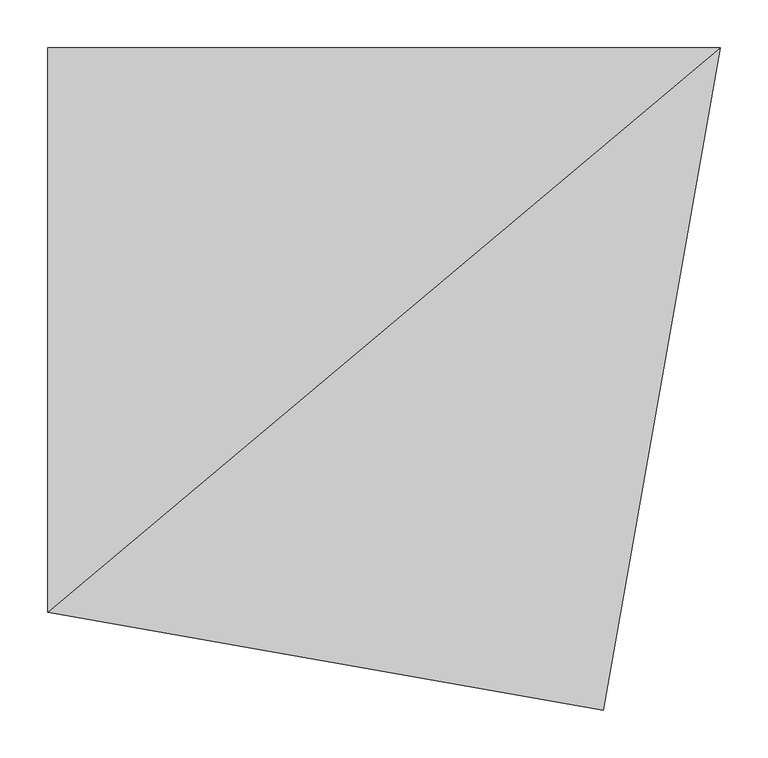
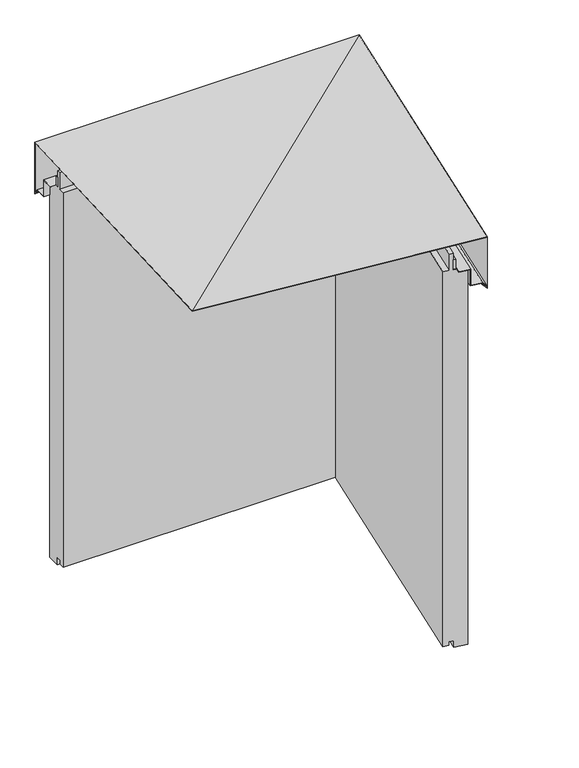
"""IFC4 building model written with IfcOpenShell, lengths in millimetres: plate geometry, Trimo_Qbiss Screen_L Corner Panel-HORIZONTAL : HR - B."""

from ifc_helpers import new_model, si_unit, frame, origin, place, context, project, spatial, polyline, outline, extrude, faceted_brep, source, transform, mapped, element, save


def plate_ab3ce5dd(model_context):
    return source(origin(), model_context, "Body", "SolidModel", [
        faceted_brep([(431.5956525, 134.2, 818.9715729), (431.5956525, 134.2, 934.1569759), (-271.6623204, 134.2, 934.1569759), (-271.6623204, 134.2, 818.9715729), (-271.6623204, -455.9035057, 906.0498724), (-271.6623204, -455.9035057, 906.8473268), (432.5490554, 135.0, 935.0), (-271.6623204, 135.0, 935.0), (432.5490554, 135.0, 817.040202), (-271.6623204, 135.0, 817.040202), (418.2719677, 123.020101, 829.020101), (-271.6623204, 123.020101, 829.020101), (418.9461254, 123.5857864, 829.5857864), (-271.6623204, 123.5857864, 829.5857864), (309.4761871, -558.373904, 818.9715729), (309.4761871, -558.373904, 934.1569759), (310.2640333, -558.5128226, 935.0), (310.2640333, -558.5128226, 817.040202), (298.4661359, -556.432535, 829.020101), (299.0232273, -556.5307652, 829.5857864)], [[[0, 1, 2, 3]], [[2, 1, 4]], [[5, 6, 7]], [[6, 8, 9, 7]], [[8, 10, 11, 9]], [[10, 12, 13, 11]], [[12, 0, 3, 13]], [[1, 0, 14, 15]], [[4, 1, 15]], [[6, 5, 16]], [[8, 6, 16, 17]], [[10, 8, 17, 18]], [[12, 10, 18, 19]], [[0, 12, 19, 14]], [[3, 2, 4, 5, 7, 9, 11, 13]], [[15, 14, 19, 18, 17, 16, 5, 4]]]),
        faceted_brep([(430.4038989, 133.2, 823.9313708), (430.4038989, 133.2, 822.8), (-271.6623204, 133.2, 822.8), (-271.6623204, 133.2, 823.9313708), (420.6315194, 125.0, 831.0), (-271.6623204, 125.0, 831.0), (300.4159558, -556.7763408, 831.0), (276.7805697, -552.6087845, 831.0), (392.0294332, 101.0, 831.0), (-271.6623204, 101.0, 831.0), (392.0294332, 101.0, 868.0), (-271.6623204, 101.0, 868.0), (276.7805697, -552.6087845, 868.0), (253.1451836, -548.4412283, 868.0), (363.427347, 77.0, 868.0), (-271.6623204, 77.0, 868.0), (363.427347, 77.0, 868.8), (-271.6623204, 77.0, 868.8), (253.1451836, -548.4412283, 868.8), (277.5684159, -552.7477031, 868.8), (392.9828361, 101.8, 868.8), (-271.6623204, 101.8, 868.8), (392.9828361, 101.8, 831.8), (-271.6623204, 101.8, 831.8), (277.5684159, -552.7477031, 831.8), (300.7422923, -556.8338828, 831.8), (421.0264318, 125.3313708, 831.8), (-271.6623204, 125.3313708, 831.8), (308.4913793, -558.2002559, 823.9313708), (308.4913793, -558.2002559, 822.8)], [[[0, 1, 2, 3]], [[1, 4, 5, 2]], [[5, 4, 6, 7, 8, 9]], [[8, 10, 11, 9]], [[11, 10, 12, 13, 14, 15]], [[14, 16, 17, 15]], [[17, 16, 18, 19, 20, 21]], [[20, 22, 23, 21]], [[23, 22, 24, 25, 26, 27]], [[26, 0, 3, 27]], [[1, 0, 28, 29]], [[4, 1, 29, 6]], [[10, 8, 7, 12]], [[16, 14, 13, 18]], [[22, 20, 19, 24]], [[0, 26, 25, 28]], [[3, 2, 5, 9, 11, 15, 17, 21, 23, 27]], [[7, 6, 29, 28, 25, 24, 19, 18, 13, 12]]]),
        extrude(outline(polyline([(-259.1623204, 71.0), (-259.1623204, 76.0), (362.2355934, 76.0), (254.3309781, -535.9574832), (249.4069393, -535.0892423), (356.2768254, 71.0), (-259.1623204, 71.0)])), frame((0.0, 0.0, 868.0), z_axis=(0.0, 0.0, 1.0), x_axis=(1.0, 0.0, 0.0)), (0.0, 0.0, 1.0), 21.0),
        faceted_brep([(-259.1623204, 71.0, 867.0), (-259.1623204, 100.0, 867.0), (-259.1623204, 100.0, 0.0), (-259.1623204, 72.0, 0.0), (-259.1623204, 72.0, 15.5), (-259.1623204, 62.0, 15.5), (-259.1623204, 62.0, 7.0), (-259.1623204, 50.0, 7.0), (-259.1623204, 50.0, 867.0), (-259.1623204, 63.0, 867.0), (-259.1623204, 63.0, 904.5), (-259.1623204, 71.0, 904.5), (356.2768254, 71.0, 867.0), (249.4069393, -535.0892423, 867.0), (277.9663641, -540.1250395, 867.0), (390.8376796, 100.0, 867.0), (390.8376796, 100.0, 0.0), (277.9663641, -540.1250395, 0.0), (250.3917471, -535.2628905, 0.0), (357.468579, 72.0, 0.0), (357.468579, 72.0, 15.5), (250.3917471, -535.2628905, 15.5), (240.5436695, -533.5264087, 15.5), (345.5510431, 62.0, 15.5), (345.5510431, 62.0, 7.0), (240.5436695, -533.5264087, 7.0), (228.7259765, -531.4426306, 7.0), (331.25, 50.0, 7.0), (331.25, 50.0, 867.0), (228.7259765, -531.4426306, 867.0), (241.5284773, -533.7000569, 867.0), (346.7427967, 63.0, 867.0), (346.7427967, 63.0, 904.5), (241.5284773, -533.7000569, 904.5), (249.4069393, -535.0892423, 904.5), (356.2768254, 71.0, 904.5)], [[[0, 1, 2, 3, 4, 5, 6, 7, 8, 9, 10, 11]], [[1, 0, 12, 13, 14, 15]], [[2, 1, 15, 16]], [[3, 2, 16, 17, 18, 19]], [[4, 3, 19, 20]], [[5, 4, 20, 21, 22, 23]], [[6, 5, 23, 24]], [[7, 6, 24, 25, 26, 27]], [[8, 7, 27, 28]], [[9, 8, 28, 29, 30, 31]], [[10, 9, 31, 32]], [[11, 10, 32, 33, 34, 35]], [[0, 11, 35, 12]], [[13, 34, 33, 30, 29, 26, 25, 22, 21, 18, 17, 14]], [[16, 15, 14, 17]], [[20, 19, 18, 21]], [[24, 23, 22, 25]], [[28, 27, 26, 29]], [[32, 31, 30, 33]], [[12, 35, 34, 13]]]),
    ])


if __name__ == "__main__":
    model = new_model("IFC4")
    model_context = context("Model", 3, world=origin())
    ifc_project = project(units=[si_unit("LENGTHUNIT", "METRE", prefix="MILLI")], contexts=[model_context])
    site = spatial("IfcSite", under=ifc_project)
    building = spatial("IfcBuilding", under=site)
    placement = place(None, origin())
    plate_shape = plate_ab3ce5dd(model_context)
    element("IfcPlate", 1, ObjectType="Trimo_Qbiss Screen_L Corner Panel-HORIZONTAL : HR - B", at=placement, inside=building, context=model_context, shape_type="MappedRepresentation", body=[
        mapped(plate_shape, transform((0.0, 0.0, 0.0), x_axis=(1.0, 0.0, 0.0), y_axis=(0.0, 1.0, 0.0), z_axis=(0.0, 0.0, 1.0))),
    ])
    save(model, "model.ifc")
